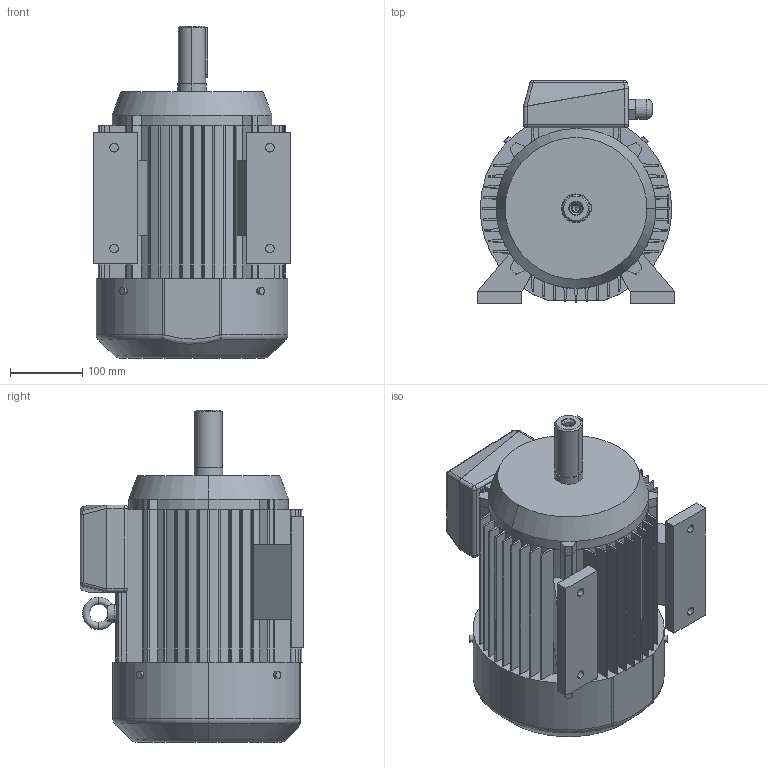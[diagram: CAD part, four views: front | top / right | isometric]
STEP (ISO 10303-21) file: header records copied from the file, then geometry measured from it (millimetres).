
FILE_DESCRIPTION (( 'STEP AP203' ), '1' );
FILE_NAME ('2SIE132S2A,6.STEP', '2012-10-26T12:43:11', ( 'INDUKTA' ), ( 'CANTONI MOTOR' ), 'SwSTEP 2.0', 'SolidWorks 2003064', '' );
FILE_SCHEMA (( 'CONFIG_CONTROL_DESIGN' ));
Length unit declared in the file: millimetre
Products named in the file (1): 2SIE132S2A,6
Bounding box: 274 x 310 x 461 mm (x, y, z)
Volume: 18442724.1 mm3; surface area: 990621 mm2
Topology: 14 solids, 14 shells, 405 faces, 1068 edges, 675 vertices
Faces by surface type: plane 185, cylinder 182, cone 14, torus 13, sphere 10, bspline 1
Entity records: 13282 total; most frequent: CARTESIAN_POINT 3003, DIRECTION 2226, ORIENTED_EDGE 2112, EDGE_CURVE 1056, AXIS2_PLACEMENT_3D 802, VERTEX_POINT 675, LINE 622, VECTOR 622
